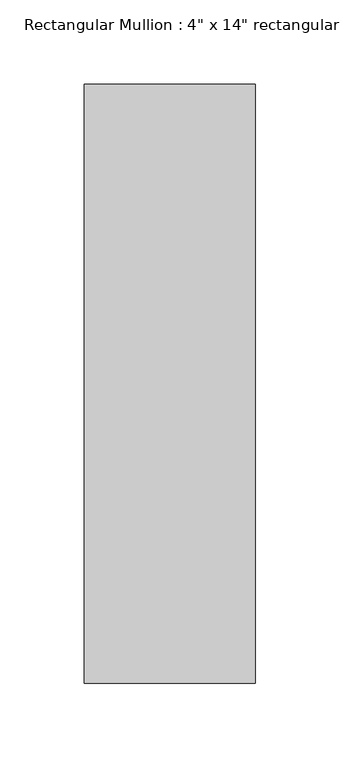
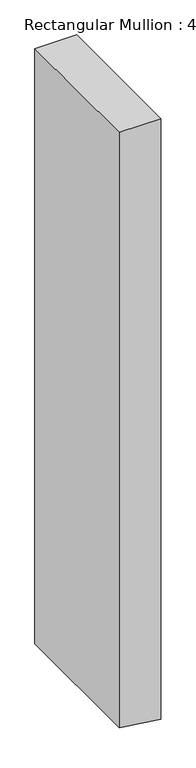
"""IFC4 building model written with IfcOpenShell, lengths in millimetres: member geometry."""

import ifcopenshell
import ifcopenshell.guid

model = None  # the IFC model being written
_history = None  # IfcOwnerHistory: only IFC2X3 demands one
_inside = {}  # id of a spatial element -> (the spatial element, [elements in it])
_under = {}  # id of a project, library or spatial element -> (it, [spatial elements below it])
_declared = {}  # id of a project -> (the project, [libraries it declares])
_typed = {}  # id of a type object -> (the type object, [elements of that type])
_made_of = {}  # id of a material, layer set ... -> (it, [elements and type objects made of it])


def new_model(schema):
    """Start an empty IFC model of exactly this schema.

    Asked for "IFC4X3", IfcOpenShell would pick the latest addendum, in which some entities
    have other attributes; the version numbers below select the first issue.
    IFC2X3 requires an IfcOwnerHistory on every rooted entity: one is made here for all.
    """
    global model, _history
    if schema == "IFC4X3":
        model = ifcopenshell.file(schema_version=(4, 3, 0, 0))
    else:
        model = ifcopenshell.file(schema=schema)
    _inside.clear()
    _under.clear()
    _declared.clear()
    _typed.clear()
    _made_of.clear()
    _history = None
    if model.schema == "IFC2X3":
        org = make("IfcOrganization", Name="unknown")
        user = make(
            "IfcPersonAndOrganization",
            ThePerson=make("IfcPerson", FamilyName="unknown"),
            TheOrganization=org,
        )
        app = make(
            "IfcApplication",
            ApplicationDeveloper=org,
            Version="unknown",
            ApplicationFullName="unknown",
            ApplicationIdentifier="unknown",
        )
        _history = make(
            "IfcOwnerHistory",
            OwningUser=user,
            OwningApplication=app,
            ChangeAction="ADDED",
            CreationDate=0,
        )
    return model


def make(cls, **values):
    """One entity of the class cls with the attributes given. An attribute that is None is left unset."""
    return model.create_entity(
        cls, **{name: value for name, value in values.items() if value is not None}
    )


def rooted(cls, **values):
    """An entity with a GlobalId (a new one), such as an element, a storey or a relation."""
    return make(cls, GlobalId=ifcopenshell.guid.new(), OwnerHistory=_history, **values)


def si_unit(unit_type, name, prefix=None):
    """IfcSIUnit, for example si_unit("LENGTHUNIT", "METRE", prefix="MILLI")."""
    return make("IfcSIUnit", UnitType=unit_type, Prefix=prefix, Name=name)


def assignment(units):
    """IfcUnitAssignment: the units of a project."""
    return None if units is None else make("IfcUnitAssignment", Units=units)


def point(xyz):
    """IfcCartesianPoint."""
    return None if xyz is None else make("IfcCartesianPoint", Coordinates=xyz)


def direction(xyz):
    """IfcDirection."""
    return None if xyz is None else make("IfcDirection", DirectionRatios=xyz)


def frame(location, z_axis=None, x_axis=None):
    """IfcAxis2Placement3D, a coordinate frame: its origin and axes. An axis left out is left unset."""
    return make(
        "IfcAxis2Placement3D",
        Location=point(location),
        Axis=direction(z_axis),
        RefDirection=direction(x_axis),
    )


def origin():
    """The frame at (0, 0, 0) with its axes left unset."""
    return frame((0.0, 0.0, 0.0))


def place(relative_to, where):
    """IfcLocalPlacement: puts the frame where relative to a parent placement (None: the world)."""
    return make(
        "IfcLocalPlacement", PlacementRelTo=relative_to, RelativePlacement=where
    )


def context(
    kind, dimensions, precision=None, world=None, true_north=None, identifier=None
):
    """IfcGeometricRepresentationContext, for example the 3D "Model" context."""
    return make(
        "IfcGeometricRepresentationContext",
        ContextIdentifier=identifier,
        ContextType=kind,
        CoordinateSpaceDimension=dimensions,
        Precision=precision,
        WorldCoordinateSystem=world,
        TrueNorth=true_north,
    )


def project(units=None, contexts=None):
    """IfcProject with its units and contexts."""
    return rooted(
        "IfcProject",
        Name="project",
        RepresentationContexts=contexts,
        UnitsInContext=assignment(units),
    )


def spatial(cls, under=None, at=None, **own):
    """A site, building, storey or space (cls), placed at a placement, below another one or the project."""
    s = rooted(cls, ObjectPlacement=at, **own)
    if under is not None:
        _under.setdefault(under.id(), (under, []))[1].append(s)
    return s


def polyline(points):
    """IfcPolyline through the points."""
    return make("IfcPolyline", Points=[point(p) for p in points])


def outline(outer, holes=None, kind="AREA"):
    """IfcArbitraryClosedProfileDef: a profile drawn as a closed curve; with holes, ...WithVoids."""
    if holes is None:
        return make("IfcArbitraryClosedProfileDef", ProfileType=kind, OuterCurve=outer)
    return make(
        "IfcArbitraryProfileDefWithVoids",
        ProfileType=kind,
        OuterCurve=outer,
        InnerCurves=holes,
    )


def extrude(swept, where, along, depth):
    """IfcExtrudedAreaSolid: the profile swept, set in the frame where, extruded along a direction by depth."""
    return make(
        "IfcExtrudedAreaSolid",
        SweptArea=swept,
        Position=where,
        ExtrudedDirection=direction(along),
        Depth=depth,
    )


def shape(context_of_items, identifier, shape_type, items):
    """IfcShapeRepresentation: the items that make up one representation, for example the "Body"."""
    return make(
        "IfcShapeRepresentation",
        ContextOfItems=context_of_items,
        RepresentationIdentifier=identifier,
        RepresentationType=shape_type,
        Items=items,
    )


def source(mapping_origin, context_of_items, identifier, shape_type, items):
    """IfcRepresentationMap: a shape defined once, which mapped items show again and again."""
    return make(
        "IfcRepresentationMap",
        MappingOrigin=mapping_origin,
        MappedRepresentation=shape(context_of_items, identifier, shape_type, items),
    )


def transform(
    local_origin,
    x_axis=None,
    y_axis=None,
    z_axis=None,
    scale=None,
    scale2=None,
    scale3=None,
    uniform=True,
):
    """IfcCartesianTransformationOperator3D, or its non-uniform kind. x_axis, y_axis, z_axis: its Axis1, 2, 3."""
    if uniform:
        return make(
            "IfcCartesianTransformationOperator3D",
            Axis1=direction(x_axis),
            Axis2=direction(y_axis),
            LocalOrigin=point(local_origin),
            Scale=scale,
            Axis3=direction(z_axis),
        )
    return make(
        "IfcCartesianTransformationOperator3DnonUniform",
        Axis1=direction(x_axis),
        Axis2=direction(y_axis),
        LocalOrigin=point(local_origin),
        Scale=scale,
        Axis3=direction(z_axis),
        Scale2=scale2,
        Scale3=scale3,
    )


def mapped(mapping_source, mapping_target):
    """IfcMappedItem: shows the shape of a source again, moved by a transform."""
    return make(
        "IfcMappedItem", MappingSource=mapping_source, MappingTarget=mapping_target
    )


def made_of(thing, what):
    """Note that an element or type object is made of a material, layer set ...; save() writes the relation."""
    if what is not None:
        _made_of.setdefault(what.id(), (what, []))[1].append(thing)
    return thing


def element(
    cls,
    number,
    at=None,
    inside=None,
    cuts=None,
    type_object=None,
    material=None,
    context=None,
    identifier="Body",
    shape_type=None,
    held_by="IfcProductDefinitionShape",
    body=None,
    shapes=None,
    **own,
):
    """One element of the class cls, such as IfcWall. Its Tag is "e" and its number.

    at: its placement. inside: the storey or other place that contains it. cuts: it is an
    opening in that element (IfcRelVoidsElement). A single representation is given by context,
    identifier, shape_type and body (its items); several are given by shapes. held_by: the class
    of the entity that holds the representations. save() writes the other relations.
    """
    e = rooted(cls, Tag="e%d" % number, ObjectPlacement=at, **own)
    if body is not None:
        shapes = [shape(context, identifier, shape_type, body)]
    if shapes is not None:
        e.Representation = make(held_by, Representations=shapes)
    if inside is not None:
        _inside.setdefault(inside.id(), (inside, []))[1].append(e)
    if cuts is not None:
        rooted(
            "IfcRelVoidsElement", RelatingBuildingElement=cuts, RelatedOpeningElement=e
        )
    if type_object is not None:
        _typed.setdefault(type_object.id(), (type_object, []))[1].append(e)
    return made_of(e, material)


def aggregate(whole, parts):
    """IfcRelAggregates: a whole, such as a stair, and the parts it consists of."""
    return rooted("IfcRelAggregates", RelatingObject=whole, RelatedObjects=parts)


def save(model, path):
    """Write the relations noted so far, then the file.

    IfcRelAggregates (storeys below a building ...), IfcRelContainedInSpatialStructure (elements
    in a storey), IfcRelDefinesByType, IfcRelAssociatesMaterial and IfcRelDeclares: one each for
    every whole, place, type object, material and project.
    """
    for whole, parts in _under.values():
        aggregate(whole, parts)
    for where, things in _inside.values():
        rooted(
            "IfcRelContainedInSpatialStructure",
            RelatedElements=things,
            RelatingStructure=where,
        )
    for kind, things in _typed.values():
        rooted("IfcRelDefinesByType", RelatedObjects=things, RelatingType=kind)
    for what, things in _made_of.values():
        rooted("IfcRelAssociatesMaterial", RelatedObjects=things, RelatingMaterial=what)
    for by, libraries in _declared.values():
        rooted("IfcRelDeclares", RelatingContext=by, RelatedDefinitions=libraries)
    model.write(path)


def member_6aaa59e1(model_context):
    return source(origin(), model_context, "Body", "SweptSolid", [
        extrude(outline(polyline([(0.0, 0.0), (0.0, -101.6), (-1533.7871549, -101.6), (-1547.9817638, 0.0), (0.0, 0.0)])), frame((0.0, -63.5, 0.0), z_axis=(0.0, 1.0, 0.0), x_axis=(0.0, 0.0, 1.0)), (0.0, 0.0, 1.0), 355.6),
    ])


if __name__ == "__main__":
    model = new_model("IFC4")
    model_context = context("Model", 3, world=origin())
    ifc_project = project(units=[si_unit("LENGTHUNIT", "METRE", prefix="MILLI")], contexts=[model_context])
    site = spatial("IfcSite", under=ifc_project)
    building = spatial("IfcBuilding", under=site)
    placement = place(None, origin())
    member_shape = member_6aaa59e1(model_context)
    element("IfcMember", 1, ObjectType="Rectangular Mullion : 4\" x 14\" rectangular", at=placement, inside=building, context=model_context, shape_type="MappedRepresentation", body=[
        mapped(member_shape, transform((0.0, 0.0, 0.0), x_axis=(1.0, 0.0, 0.0), y_axis=(0.0, 1.0, 0.0), z_axis=(0.0, 0.0, 1.0))),
    ])
    save(model, "model.ifc")
